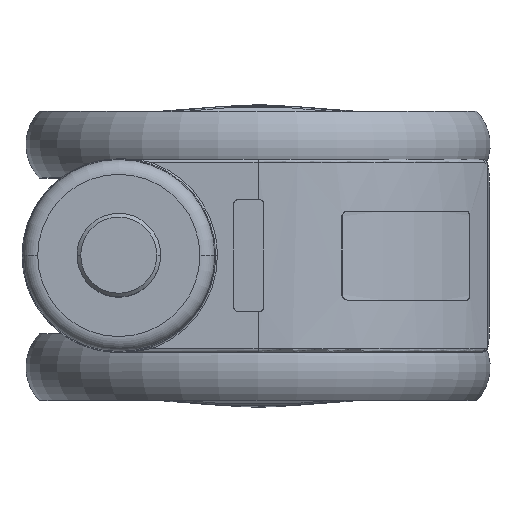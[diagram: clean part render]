
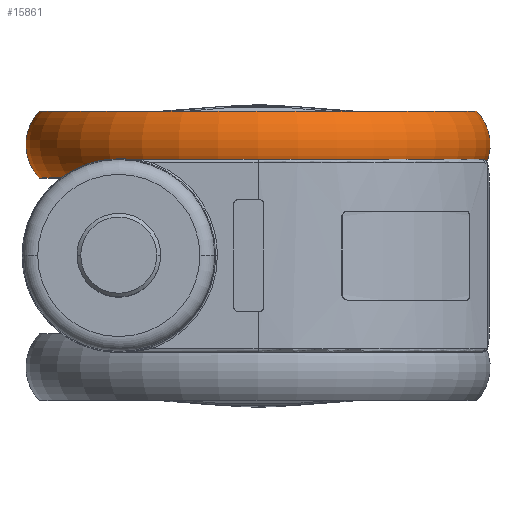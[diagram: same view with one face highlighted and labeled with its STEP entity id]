
A CAD part, top view. The second image highlights one B-rep face of the part: STEP entity #15861.
In plain terms, the highlighted toroidal (fillet/blend) face has major radius 49.5 mm and minor radius 13 mm.
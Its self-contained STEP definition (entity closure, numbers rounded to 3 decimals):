
#214=TOROIDAL_SURFACE('',#75523,49.5,13.);
#406=FACE_BOUND('',#23746,.T.);
#407=FACE_BOUND('',#23747,.T.);
#15861=ADVANCED_FACE('',(#406,#407),#214,.T.);
#23746=EDGE_LOOP('',(#40664));
#23747=EDGE_LOOP('',(#40665));
#26985=CIRCLE('',#75521,58.923);
#26986=CIRCLE('',#75522,58.923);
#40664=ORIENTED_EDGE('',*,*,#63874,.F.);
#40665=ORIENTED_EDGE('',*,*,#63875,.T.);
#54370=VERTEX_POINT('',#138349);
#54371=VERTEX_POINT('',#138351);
#63874=EDGE_CURVE('',#54370,#54370,#26985,.T.);
#63875=EDGE_CURVE('',#54371,#54371,#26986,.T.);
#75521=AXIS2_PLACEMENT_3D('',#138348,#87777,#87778);
#75522=AXIS2_PLACEMENT_3D('',#138350,#87779,#87780);
#75523=AXIS2_PLACEMENT_3D('',#138352,#87781,#87782);
#87777=DIRECTION('',(0.,-1.,0.));
#87778=DIRECTION('',(0.,0.,-1.));
#87779=DIRECTION('',(0.,-1.,0.));
#87780=DIRECTION('',(0.,0.,-1.));
#87781=DIRECTION('',(0.,-1.,0.));
#87782=DIRECTION('',(0.,0.,-1.));
#138348=CARTESIAN_POINT('',(37.496,21.,-127.5));
#138349=CARTESIAN_POINT('',(37.496,21.,-186.423));
#138350=CARTESIAN_POINT('',(37.496,38.911,-127.5));
#138351=CARTESIAN_POINT('',(37.496,38.911,-186.423));
#138352=CARTESIAN_POINT('',(37.496,29.955,-127.5));
